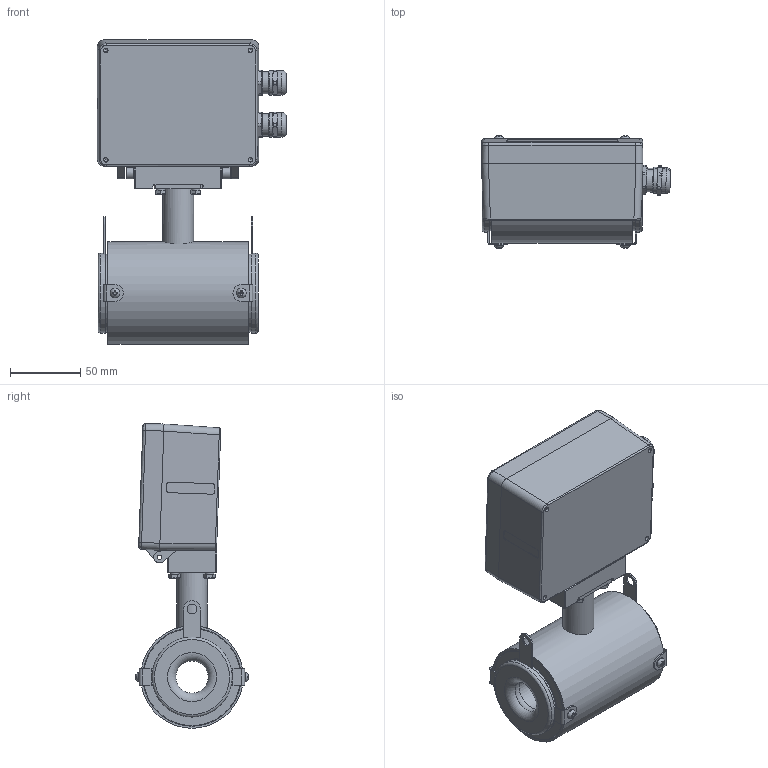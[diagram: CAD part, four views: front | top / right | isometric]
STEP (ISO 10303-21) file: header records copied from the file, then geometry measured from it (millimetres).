
FILE_DESCRIPTION(('STEP AP203'), '1');
FILE_NAME('Âçëåò ÝÌ ÏÐÎÔÈ DN25 Ñýíäâè÷', '', ('UNSPECIFIED'), ('UNSPECIFIED'), 'C3D Converter', 'C3D Toolkit', '');
FILE_SCHEMA(('CONFIG_CONTROL_DESIGN'));
Length unit declared in the file: millimetre
Products named in the file (1): ШКСД.407212.004-002-02
Bounding box: 134.72 x 80.3 x 216.97 mm (x, y, z)
Surface area: 193974.6 mm2
Topology: 2 solids, 11 shells, 939 faces, 2222 edges, 1390 vertices
Faces by surface type: plane 468, cylinder 270, cone 91, bspline 68, torus 38, sphere 4
Full cylindrical faces by diameter (mm): 0.8 x1, 3.242 x18, 3.422 x2, 4 x10, 4.134 x1, 4.5 x10, 4.917 x2, 5 x4, 6 x4, 6.2 x2, 7 x6, 7.5 x4, 8.7 x2, 12 x4, 15 x4, 16 x8, 16.3 x2, 17.5 x4, 19 x1, 20.2 x1, 22 x1, 24 x1, 26 x2, 30 x2, 31 x2, 34 x2, 35 x1, 36 x1, 55.5 x2, 57 x2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
Entity records: 50815 total; most frequent: CARTESIAN_POINT 22938, DIRECTION 4049, ORIENTED_EDGE 3970, EDGE_CURVE 1991, AXIS2_PLACEMENT_3D 1551, VERTEX_POINT 1371, EDGE_LOOP 1274, FACE_BOUND 951
